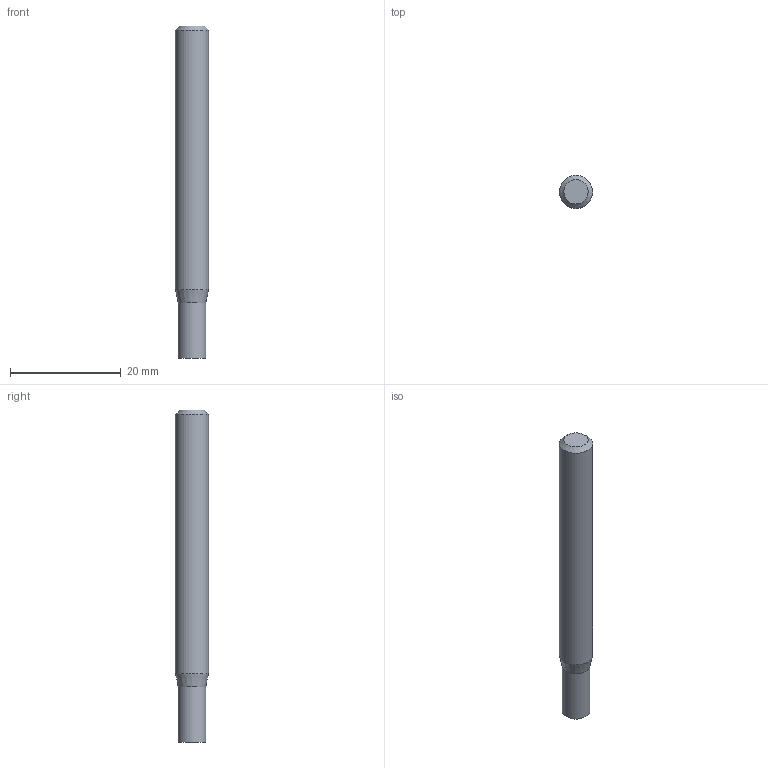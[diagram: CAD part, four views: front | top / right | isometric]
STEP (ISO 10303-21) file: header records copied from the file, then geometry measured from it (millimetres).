
FILE_DESCRIPTION((''),'2;1');
FILE_NAME('C:\Users\nsx150\AppData\Local\Temp\Mastercam 2021\Y59DX2IYLB\TEMP.step','2021-04-08T17:09:45',(''),(''),'STEP Write','Mastercam 2021 ... CNC Software, Inc.','');
FILE_SCHEMA(('AUTOMOTIVE_DESIGN'));
Length unit declared in the file: millimetre
Products named in the file (1): None
Bounding box: 6 x 6 x 60 mm (x, y, z)
Volume: 1594.1 mm3; surface area: 1174.3 mm2
Topology: 2 solids, 2 shells, 8 faces, 10 edges, 6 vertices
Faces by surface type: plane 4, cylinder 2, cone 2
Full cylindrical faces by diameter (mm): 5 x1, 6 x1
Entity records: 190 total; most frequent: DIRECTION 32, CARTESIAN_POINT 22, AXIS2_PLACEMENT_3D 16, ORIENTED_EDGE 12, EDGE_LOOP 12, STYLED_ITEM 11, ADVANCED_FACE 8, VERTEX_POINT 6
